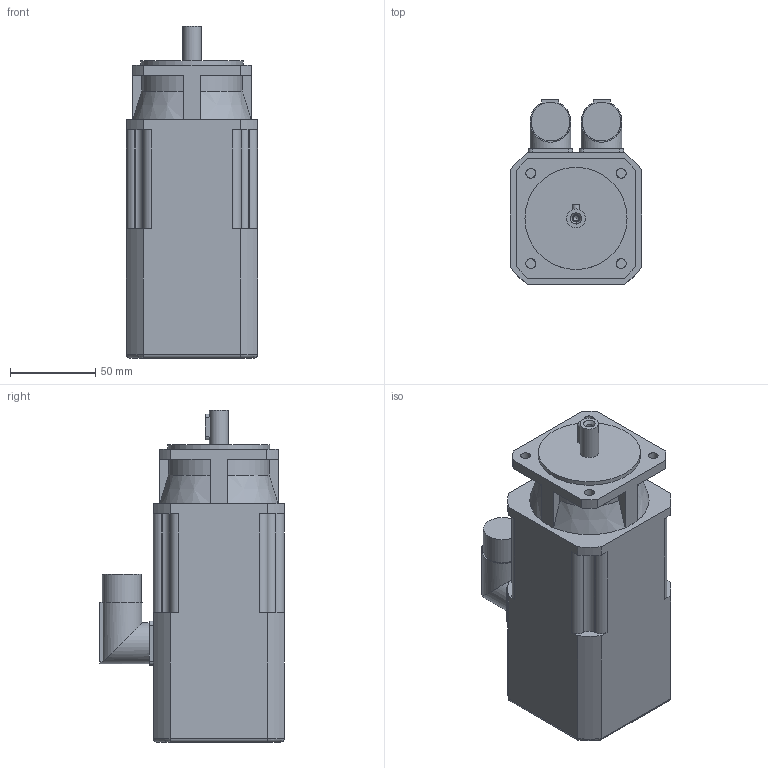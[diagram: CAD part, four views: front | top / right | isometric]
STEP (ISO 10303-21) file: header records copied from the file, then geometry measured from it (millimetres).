
FILE_DESCRIPTION(/* description */ (''),/* implementation_level */ '2;1');
FILE_NAME(/* name */ '\\Lafnas01\disegni\Archivi Lafert\3D\CAD 3D\MODELLI\Assiemi clienti\Serad\Modelli 3D Serad\B36I\Encoder\Enc Without Brake\B36D6Ixx6ARx2033.ipt.stp',/* time_stamp */ '2015-09-07T10:48:59+02:00',/* author */ ('Pastrello Ylenia'),/* organization */ (''),/* preprocessor_version */ 'ST-DEVELOPER v15.6',/* originating_system */ 'Autodesk Inventor 2015',/* authorisation */ '');
FILE_SCHEMA (('AUTOMOTIVE_DESIGN { 1 0 10303 214 3 1 1 }'));
Length unit declared in the file: millimetre
Products named in the file (1): B36D6Ixx6ARx2033
Bounding box: 77 x 108.5 x 195 mm (x, y, z)
Volume: 968907.4 mm3; surface area: 72767 mm2
Topology: 1 solids, 1 shells, 135 faces, 364 edges, 240 vertices
Faces by surface type: plane 64, cylinder 56, cone 11, torus 4
Full cylindrical faces by diameter (mm): 3.242 x1, 4.3 x1, 5.8 x4, 11 x1, 22.7 x2, 24 x2, 60 x1
Entity records: 4274 total; most frequent: CARTESIAN_POINT 876, DIRECTION 712, ORIENTED_EDGE 686, EDGE_CURVE 343, AXIS2_PLACEMENT_3D 255, VERTEX_POINT 235, LINE 202, VECTOR 202
